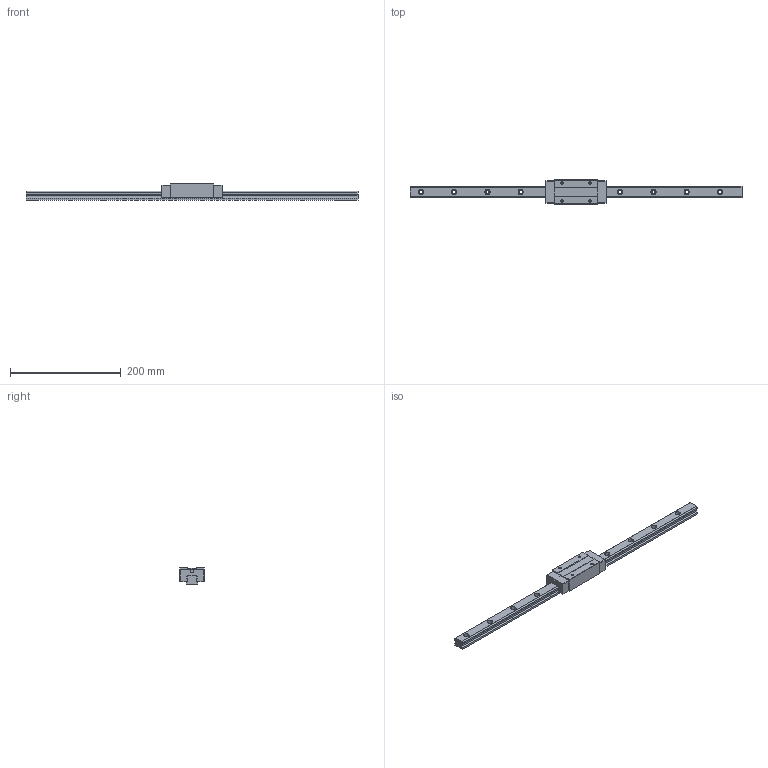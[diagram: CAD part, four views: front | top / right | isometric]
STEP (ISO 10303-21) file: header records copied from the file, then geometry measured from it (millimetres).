
FILE_DESCRIPTION (( 'STEP AP203' ), '1' );
FILE_NAME ('TRH20VE-ZN-§ï.STEP', '2023-08-30T07:58:32', ( '' ), ( '' ), 'SwSTEP 2.0', 'SolidWorks 2022', '' );
FILE_SCHEMA (( 'CONFIG_CONTROL_DESIGN' ));
Length unit declared in the file: millimetre
Products named in the file (1): TRH20VE-ZN-改
Bounding box: 600 x 44 x 30 mm (x, y, z)
Volume: 259917.9 mm3; surface area: 68241.7 mm2
Topology: 1 solids, 1 shells, 183 faces, 492 edges, 318 vertices
Faces by surface type: cylinder 88, plane 79, cone 16
Entity records: 5829 total; most frequent: DIRECTION 1038, CARTESIAN_POINT 986, ORIENTED_EDGE 968, EDGE_CURVE 484, AXIS2_PLACEMENT_3D 370, VERTEX_POINT 318, LINE 298, VECTOR 298
